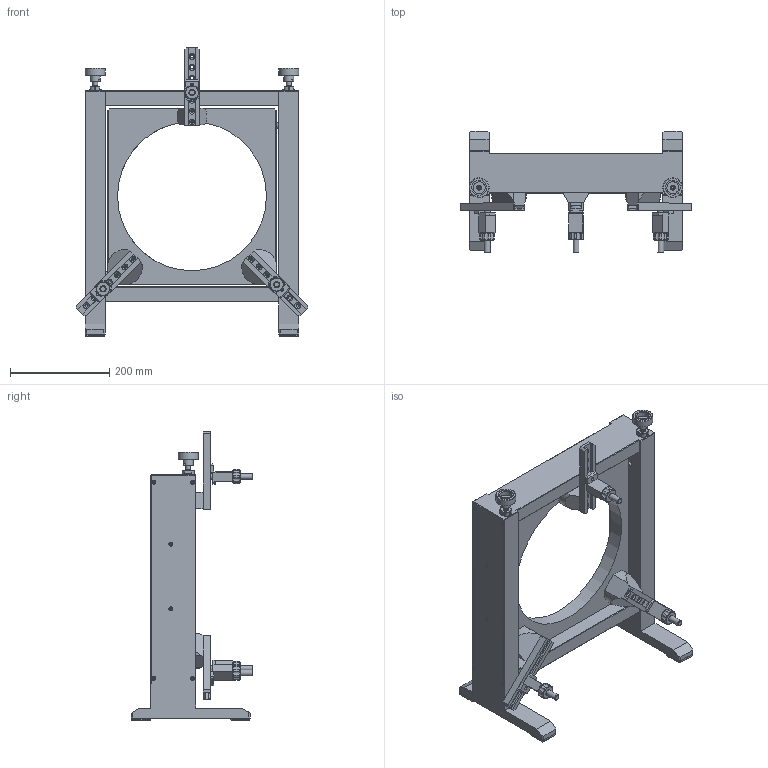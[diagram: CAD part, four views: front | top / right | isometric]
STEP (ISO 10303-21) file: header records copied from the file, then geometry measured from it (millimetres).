
FILE_DESCRIPTION(/* description */ (''),/* implementation_level */ '2;1');
FILE_NAME(/* name */ '\\ad-srv\File_server\FAILAI\KONSTRUKTORIAI\DOKUMENTACIJA\5\5AMR-500\step\5AMR-500 SB.stp',/* time_stamp */ '2016-03-30T12:06:27+03:00',/* author */ ('dsgn39'),/* organization */ (''),/* preprocessor_version */ 'ST-DEVELOPER v15.2',/* originating_system */ 'Autodesk Inventor 2014',/* authorisation */ '');
FILE_SCHEMA (('AUTOMOTIVE_DESIGN { 1 0 10303 214 3 1 1 }'));
Length unit declared in the file: millimetre
Products named in the file (2): Part102; Assembly21
Bounding box: 466.59 x 245.5 x 582 mm (x, y, z)
Volume: 6251239.7 mm3; surface area: 959423.4 mm2
Topology: 3 solids, 28 shells, 1157 faces, 2817 edges, 1807 vertices
Faces by surface type: plane 564, cylinder 386, cone 200, sphere 6, torus 1
Full cylindrical faces by diameter (mm): 3.242 x26, 4 x4, 4.3 x1, 4.5 x23, 4.917 x36, 5 x1, 6 x1, 6.4 x21, 6.5 x11, 6.647 x6, 7 x2, 7.4 x2, 8 x19, 8.376 x12, 8.5 x6, 9 x4, 10 x15, 11 x18, 11.5 x2, 12 x30, 13.5 x1, 15 x6, 16 x3, 16.5 x2, 16.917 x4, 18 x9, 20 x2, 24 x4, 25 x2, 30 x2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
Entity records: 31249 total; most frequent: CARTESIAN_POINT 6401, DIRECTION 5231, ORIENTED_EDGE 4412, EDGE_CURVE 2203, AXIS2_PLACEMENT_3D 2028, EDGE_LOOP 1803, VERTEX_POINT 1616, LINE 1175
